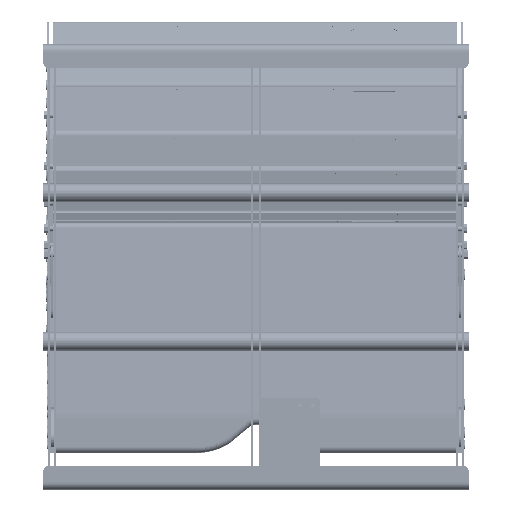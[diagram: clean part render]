
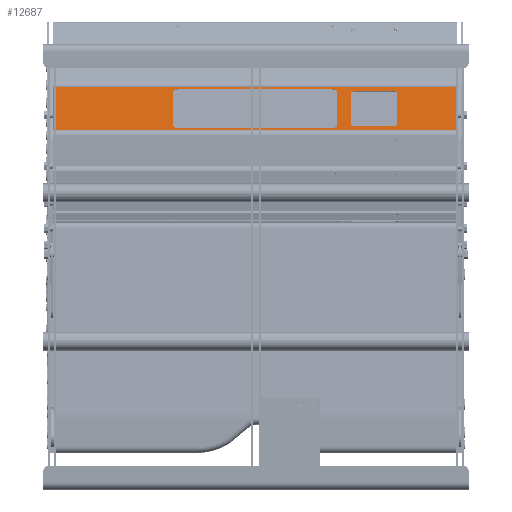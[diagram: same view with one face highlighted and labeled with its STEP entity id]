
A CAD part, top view. The second image highlights one B-rep face of the part: STEP entity #12687.
In plain terms, the highlighted planar face has unit normal (0, 0.891, 0.454) as drawn and (-1, 0, 0) by its records, which use the part's own axes.
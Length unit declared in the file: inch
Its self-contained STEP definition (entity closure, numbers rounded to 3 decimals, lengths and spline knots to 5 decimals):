
#931=CIRCLE('',#13791,0.375);
#932=CIRCLE('',#13792,0.375);
#933=CIRCLE('',#13793,0.375);
#934=CIRCLE('',#13794,0.375);
#935=CIRCLE('',#13795,0.33);
#936=CIRCLE('',#13796,0.33);
#937=CIRCLE('',#13797,0.33);
#938=CIRCLE('',#13798,0.33);
#1471=FACE_BOUND('',#2708,.T.);
#1472=FACE_BOUND('',#2709,.T.);
#1868=FACE_OUTER_BOUND('',#2707,.T.);
#2707=EDGE_LOOP('',(#10295,#10296,#10297,#10298));
#2708=EDGE_LOOP('',(#10299,#10300,#10301,#10302,#10303,#10304,#10305,#10306));
#2709=EDGE_LOOP('',(#10307,#10308,#10309,#10310,#10311,#10312,#10313,#10314));
#3937=LINE('',#20626,#5055);
#3940=LINE('',#20636,#5058);
#3941=LINE('',#20637,#5059);
#3942=LINE('',#20638,#5060);
#3943=LINE('',#20643,#5061);
#3944=LINE('',#20647,#5062);
#3945=LINE('',#20651,#5063);
#3946=LINE('',#20654,#5064);
#3947=LINE('',#20659,#5065);
#3948=LINE('',#20663,#5066);
#3949=LINE('',#20667,#5067);
#3950=LINE('',#20670,#5068);
#5055=VECTOR('',#16538,27.238);
#5058=VECTOR('',#16549,27.238);
#5059=VECTOR('',#16550,6.45343);
#5060=VECTOR('',#16551,6.45343);
#5061=VECTOR('',#16554,10.25);
#5062=VECTOR('',#16557,5.05);
#5063=VECTOR('',#16560,10.25);
#5064=VECTOR('',#16563,5.05);
#5065=VECTOR('',#16566,2.5);
#5066=VECTOR('',#16569,4.5);
#5067=VECTOR('',#16572,2.5);
#5068=VECTOR('',#16575,4.5);
#6147=VERTEX_POINT('',#20624);
#6148=VERTEX_POINT('',#20625);
#6150=VERTEX_POINT('',#20634);
#6151=VERTEX_POINT('',#20635);
#6152=VERTEX_POINT('',#20639);
#6153=VERTEX_POINT('',#20640);
#6154=VERTEX_POINT('',#20642);
#6155=VERTEX_POINT('',#20644);
#6156=VERTEX_POINT('',#20646);
#6157=VERTEX_POINT('',#20648);
#6158=VERTEX_POINT('',#20650);
#6159=VERTEX_POINT('',#20652);
#6160=VERTEX_POINT('',#20655);
#6161=VERTEX_POINT('',#20656);
#6162=VERTEX_POINT('',#20658);
#6163=VERTEX_POINT('',#20660);
#6164=VERTEX_POINT('',#20662);
#6165=VERTEX_POINT('',#20664);
#6166=VERTEX_POINT('',#20666);
#6167=VERTEX_POINT('',#20668);
#7626=EDGE_CURVE('',#6147,#6148,#3937,.T.);
#7631=EDGE_CURVE('',#6150,#6151,#3940,.T.);
#7632=EDGE_CURVE('',#6150,#6147,#3941,.T.);
#7633=EDGE_CURVE('',#6151,#6148,#3942,.T.);
#7634=EDGE_CURVE('',#6152,#6153,#931,.T.);
#7635=EDGE_CURVE('',#6154,#6152,#3943,.T.);
#7636=EDGE_CURVE('',#6155,#6154,#932,.T.);
#7637=EDGE_CURVE('',#6156,#6155,#3944,.T.);
#7638=EDGE_CURVE('',#6157,#6156,#933,.T.);
#7639=EDGE_CURVE('',#6158,#6157,#3945,.T.);
#7640=EDGE_CURVE('',#6159,#6158,#934,.T.);
#7641=EDGE_CURVE('',#6153,#6159,#3946,.T.);
#7642=EDGE_CURVE('',#6160,#6161,#935,.T.);
#7643=EDGE_CURVE('',#6162,#6160,#3947,.T.);
#7644=EDGE_CURVE('',#6163,#6162,#936,.T.);
#7645=EDGE_CURVE('',#6164,#6163,#3948,.T.);
#7646=EDGE_CURVE('',#6165,#6164,#937,.T.);
#7647=EDGE_CURVE('',#6166,#6165,#3949,.T.);
#7648=EDGE_CURVE('',#6167,#6166,#938,.T.);
#7649=EDGE_CURVE('',#6161,#6167,#3950,.T.);
#10295=ORIENTED_EDGE('',*,*,#7631,.F.);
#10296=ORIENTED_EDGE('',*,*,#7632,.T.);
#10297=ORIENTED_EDGE('',*,*,#7626,.T.);
#10298=ORIENTED_EDGE('',*,*,#7633,.F.);
#10299=ORIENTED_EDGE('',*,*,#7634,.F.);
#10300=ORIENTED_EDGE('',*,*,#7635,.F.);
#10301=ORIENTED_EDGE('',*,*,#7636,.F.);
#10302=ORIENTED_EDGE('',*,*,#7637,.F.);
#10303=ORIENTED_EDGE('',*,*,#7638,.F.);
#10304=ORIENTED_EDGE('',*,*,#7639,.F.);
#10305=ORIENTED_EDGE('',*,*,#7640,.F.);
#10306=ORIENTED_EDGE('',*,*,#7641,.F.);
#10307=ORIENTED_EDGE('',*,*,#7642,.F.);
#10308=ORIENTED_EDGE('',*,*,#7643,.F.);
#10309=ORIENTED_EDGE('',*,*,#7644,.F.);
#10310=ORIENTED_EDGE('',*,*,#7645,.F.);
#10311=ORIENTED_EDGE('',*,*,#7646,.F.);
#10312=ORIENTED_EDGE('',*,*,#7647,.F.);
#10313=ORIENTED_EDGE('',*,*,#7648,.F.);
#10314=ORIENTED_EDGE('',*,*,#7649,.F.);
#12222=PLANE('',#13790);
#12687=ADVANCED_FACE('',(#1868,#1471,#1472),#12222,.T.);
#13790=AXIS2_PLACEMENT_3D('',#20633,#16547,#16548);
#13791=AXIS2_PLACEMENT_3D('',#20641,#16552,#16553);
#13792=AXIS2_PLACEMENT_3D('',#20645,#16555,#16556);
#13793=AXIS2_PLACEMENT_3D('',#20649,#16558,#16559);
#13794=AXIS2_PLACEMENT_3D('',#20653,#16561,#16562);
#13795=AXIS2_PLACEMENT_3D('',#20657,#16564,#16565);
#13796=AXIS2_PLACEMENT_3D('',#20661,#16567,#16568);
#13797=AXIS2_PLACEMENT_3D('',#20665,#16570,#16571);
#13798=AXIS2_PLACEMENT_3D('',#20669,#16573,#16574);
#16538=DIRECTION('',(0.,0.,1.));
#16547=DIRECTION('center_axis',(-1.,0.,0.));
#16548=DIRECTION('ref_axis',(0.,0.,1.));
#16549=DIRECTION('',(0.,0.,1.));
#16550=DIRECTION('',(0.,-1.,0.));
#16551=DIRECTION('',(0.,-1.,0.));
#16552=DIRECTION('center_axis',(-1.,0.,0.));
#16553=DIRECTION('ref_axis',(0.,-1.,0.));
#16554=DIRECTION('',(0.,0.,-1.));
#16555=DIRECTION('center_axis',(-1.,0.,0.));
#16556=DIRECTION('ref_axis',(0.,-1.,0.));
#16557=DIRECTION('',(0.,1.,0.));
#16558=DIRECTION('center_axis',(-1.,0.,0.));
#16559=DIRECTION('ref_axis',(0.,-1.,0.));
#16560=DIRECTION('',(0.,0.,1.));
#16561=DIRECTION('center_axis',(-1.,0.,0.));
#16562=DIRECTION('ref_axis',(0.,-1.,0.));
#16563=DIRECTION('',(0.,-1.,0.));
#16564=DIRECTION('center_axis',(-1.,0.,0.));
#16565=DIRECTION('ref_axis',(0.,-1.,0.));
#16566=DIRECTION('',(0.,0.,-1.));
#16567=DIRECTION('center_axis',(-1.,0.,0.));
#16568=DIRECTION('ref_axis',(0.,-1.,0.));
#16569=DIRECTION('',(0.,1.,0.));
#16570=DIRECTION('center_axis',(-1.,0.,0.));
#16571=DIRECTION('ref_axis',(0.,-1.,0.));
#16572=DIRECTION('',(0.,0.,1.));
#16573=DIRECTION('center_axis',(-1.,0.,0.));
#16574=DIRECTION('ref_axis',(0.,-1.,0.));
#16575=DIRECTION('',(0.,-1.,0.));
#20624=CARTESIAN_POINT('',(-13.0906,-3.22672,-27.607));
#20625=CARTESIAN_POINT('',(-13.0906,-3.22672,-0.369));
#20626=CARTESIAN_POINT('',(-13.0906,-3.22672,-27.607));
#20633=CARTESIAN_POINT('Origin',(-13.0906,-3.22672,-27.976));
#20634=CARTESIAN_POINT('',(-13.0906,3.22672,-27.607));
#20635=CARTESIAN_POINT('',(-13.0906,3.22672,-0.369));
#20636=CARTESIAN_POINT('',(-13.0906,3.22672,-27.607));
#20637=CARTESIAN_POINT('',(-13.0906,3.22672,-27.607));
#20638=CARTESIAN_POINT('',(-13.0906,3.22672,-0.369));
#20639=CARTESIAN_POINT('',(-13.0906,2.9,-19.113));
#20640=CARTESIAN_POINT('',(-13.0906,2.525,-19.488));
#20641=CARTESIAN_POINT('Origin',(-13.0906,2.525,-19.113));
#20642=CARTESIAN_POINT('',(-13.0906,2.9,-8.863));
#20643=CARTESIAN_POINT('',(-13.0906,2.9,-8.863));
#20644=CARTESIAN_POINT('',(-13.0906,2.525,-8.488));
#20645=CARTESIAN_POINT('Origin',(-13.0906,2.525,-8.863));
#20646=CARTESIAN_POINT('',(-13.0906,-2.525,-8.488));
#20647=CARTESIAN_POINT('',(-13.0906,-2.525,-8.488));
#20648=CARTESIAN_POINT('',(-13.0906,-2.9,-8.863));
#20649=CARTESIAN_POINT('Origin',(-13.0906,-2.525,-8.863));
#20650=CARTESIAN_POINT('',(-13.0906,-2.9,-19.113));
#20651=CARTESIAN_POINT('',(-13.0906,-2.9,-19.113));
#20652=CARTESIAN_POINT('',(-13.0906,-2.525,-19.488));
#20653=CARTESIAN_POINT('Origin',(-13.0906,-2.525,-19.113));
#20654=CARTESIAN_POINT('',(-13.0906,2.525,-19.488));
#20655=CARTESIAN_POINT('',(-13.0906,2.58,-23.238));
#20656=CARTESIAN_POINT('',(-13.0906,2.25,-23.568));
#20657=CARTESIAN_POINT('Origin',(-13.0906,2.25,-23.238));
#20658=CARTESIAN_POINT('',(-13.0906,2.58,-20.738));
#20659=CARTESIAN_POINT('',(-13.0906,2.58,-20.738));
#20660=CARTESIAN_POINT('',(-13.0906,2.25,-20.408));
#20661=CARTESIAN_POINT('Origin',(-13.0906,2.25,-20.738));
#20662=CARTESIAN_POINT('',(-13.0906,-2.25,-20.408));
#20663=CARTESIAN_POINT('',(-13.0906,-2.25,-20.408));
#20664=CARTESIAN_POINT('',(-13.0906,-2.58,-20.738));
#20665=CARTESIAN_POINT('Origin',(-13.0906,-2.25,-20.738));
#20666=CARTESIAN_POINT('',(-13.0906,-2.58,-23.238));
#20667=CARTESIAN_POINT('',(-13.0906,-2.58,-23.238));
#20668=CARTESIAN_POINT('',(-13.0906,-2.25,-23.568));
#20669=CARTESIAN_POINT('Origin',(-13.0906,-2.25,-23.238));
#20670=CARTESIAN_POINT('',(-13.0906,2.25,-23.568));
